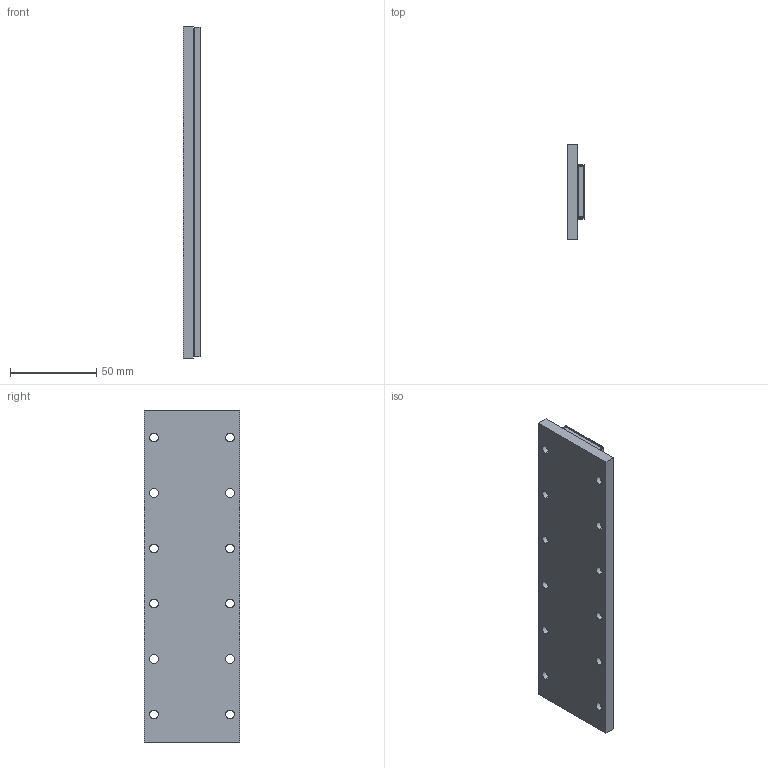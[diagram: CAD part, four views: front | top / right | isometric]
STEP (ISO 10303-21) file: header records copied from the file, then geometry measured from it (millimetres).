
FILE_DESCRIPTION (( 'STEP AP214' ), '1' );
FILE_NAME ('PIXM030-TL192-C.STEP', '2019-03-08T10:31:46', ( '' ), ( '' ), 'SwSTEP 2.0', 'SolidWorks 2016', '' );
FILE_SCHEMA (( 'AUTOMOTIVE_DESIGN' ));
Length unit declared in the file: millimetre
Products named in the file (4): 001SM030LXXX02_TL192; 001SM030000001-CUSTOMER_TL192; 001SM030LXXX01_TL192; PIXM030-TL192-C
Assembly tree (3 placements, depth 2):
  PIXM030-TL192-C
    001SM030LXXX01_TL192
    001SM030000001-CUSTOMER_TL192
    001SM030LXXX02_TL192
Bounding box: 10.3 x 55 x 192 mm (x, y, z)
Volume: 85465.6 mm3; surface area: 52639 mm2
Topology: 3 solids, 3 shells, 125 faces, 286 edges, 172 vertices
Faces by surface type: cylinder 64, plane 53, sphere 8
Entity records: 3662 total; most frequent: DIRECTION 668, CARTESIAN_POINT 581, ORIENTED_EDGE 556, EDGE_CURVE 278, AXIS2_PLACEMENT_3D 259, VERTEX_POINT 172, EDGE_LOOP 162, VECTOR 150
